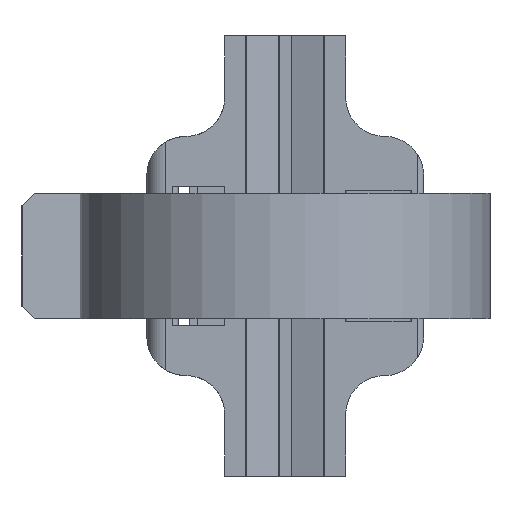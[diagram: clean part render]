
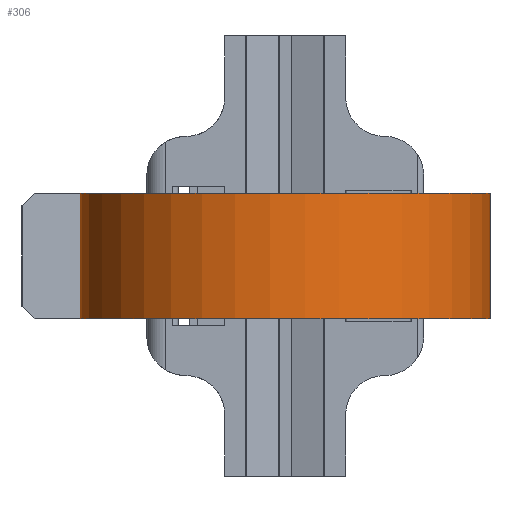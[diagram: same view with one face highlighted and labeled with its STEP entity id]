
A CAD part, front view. The second image highlights one B-rep face of the part: STEP entity #306.
In plain terms, the highlighted cylindrical face has radius 16.3 mm (diameter 32.6 mm), a partial arc.
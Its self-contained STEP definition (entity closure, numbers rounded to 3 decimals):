
#306 = ADVANCED_FACE( '', ( #665 ), #666, .T. );
#665 = FACE_OUTER_BOUND( '', #1072, .T. );
#666 = CYLINDRICAL_SURFACE( '', #1073, 16.3 );
#1072 = EDGE_LOOP( '', ( #1963, #1964, #1965, #1966 ) );
#1073 = AXIS2_PLACEMENT_3D( '', #1967, #1968, #1969 );
#1963 = ORIENTED_EDGE( '', *, *, #2833, .T. );
#1964 = ORIENTED_EDGE( '', *, *, #2834, .F. );
#1965 = ORIENTED_EDGE( '', *, *, #2566, .F. );
#1966 = ORIENTED_EDGE( '', *, *, #2471, .T. );
#1967 = CARTESIAN_POINT( '', ( 0., -16.15, 5. ) );
#1968 = DIRECTION( '', ( 0., 0., 1. ) );
#1969 = DIRECTION( '', ( -1., 0., 0. ) );
#2471 = EDGE_CURVE( '', #2968, #2965, #2969, .T. );
#2566 = EDGE_CURVE( '', #2968, #3141, #3142, .T. );
#2833 = EDGE_CURVE( '', #2965, #3541, #3542, .T. );
#2834 = EDGE_CURVE( '', #3141, #3541, #3543, .T. );
#2965 = VERTEX_POINT( '', #3710 );
#2968 = VERTEX_POINT( '', #3713 );
#2969 = LINE( '', #3714, #3715 );
#3141 = VERTEX_POINT( '', #3947 );
#3142 = CIRCLE( '', #3948, 16.3 );
#3541 = VERTEX_POINT( '', #4582 );
#3542 = CIRCLE( '', #4583, 16.3 );
#3543 = LINE( '', #4584, #4585 );
#3710 = CARTESIAN_POINT( '', ( -7.858, -1.869, -5. ) );
#3713 = CARTESIAN_POINT( '', ( -7.858, -1.869, 5. ) );
#3714 = CARTESIAN_POINT( '', ( -7.858, -1.869, 5. ) );
#3715 = VECTOR( '', #4772, 1000. );
#3947 = CARTESIAN_POINT( '', ( 9.917, -3.214, 5. ) );
#3948 = AXIS2_PLACEMENT_3D( '', #4902, #4903, #4904 );
#4582 = CARTESIAN_POINT( '', ( 9.917, -3.214, -5. ) );
#4583 = AXIS2_PLACEMENT_3D( '', #5199, #5200, #5201 );
#4584 = CARTESIAN_POINT( '', ( 9.917, -3.214, 5. ) );
#4585 = VECTOR( '', #5202, 1000. );
#4772 = DIRECTION( '', ( 0., 0., -1. ) );
#4902 = CARTESIAN_POINT( '', ( 0., -16.15, 5. ) );
#4903 = DIRECTION( '', ( 0., 0., 1. ) );
#4904 = DIRECTION( '', ( 1., 0., 0. ) );
#5199 = CARTESIAN_POINT( '', ( 0., -16.15, -5. ) );
#5200 = DIRECTION( '', ( 0., 0., 1. ) );
#5201 = DIRECTION( '', ( 1., 0., 0. ) );
#5202 = DIRECTION( '', ( 0., 0., -1. ) );
